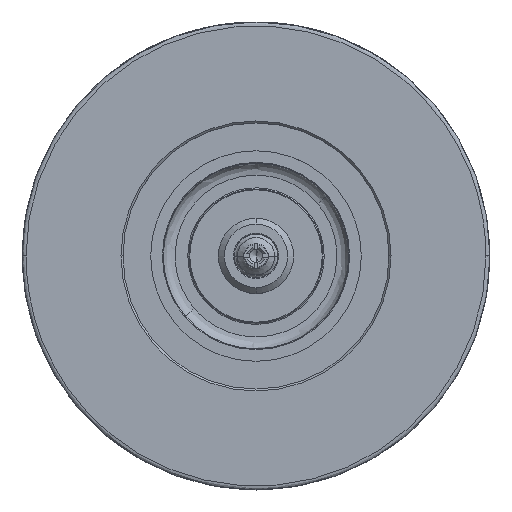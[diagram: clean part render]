
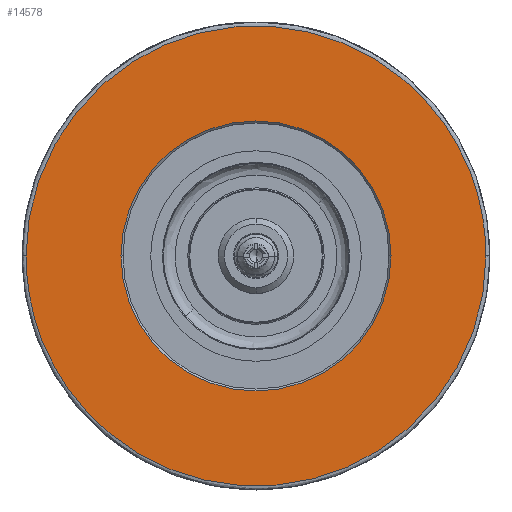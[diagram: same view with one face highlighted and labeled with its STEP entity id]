
A CAD part, top view. The second image highlights one B-rep face of the part: STEP entity #14578.
In plain terms, the highlighted planar face has unit normal (0, 0, 1).
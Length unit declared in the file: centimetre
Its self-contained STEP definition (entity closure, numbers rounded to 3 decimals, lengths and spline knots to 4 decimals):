
#3947 = EDGE_CURVE ( 'NONE', #18212, #4755, #41299, .T. ) ;
#4499 = EDGE_LOOP ( 'NONE', ( #4556, #4557 ) ) ;
#4550 = ORIENTED_EDGE ( 'NONE', *, *, #3947, .F. ) ;
#4551 = ORIENTED_EDGE ( 'NONE', *, *, #8740, .F. ) ;
#4556 = ORIENTED_EDGE ( 'NONE', *, *, #28967, .T. ) ;
#4557 = ORIENTED_EDGE ( 'NONE', *, *, #8785, .T. ) ;
#4755 = VERTEX_POINT ( 'NONE', #12757 ) ;
#4997 = AXIS2_PLACEMENT_3D ( 'NONE', #35416, #35417, #35418 ) ;
#5235 = CIRCLE ( 'NONE', #24213, 0.8649 ) ;
#7745 = EDGE_LOOP ( 'NONE', ( #4550, #4551 ) ) ;
#8201 = CARTESIAN_POINT ( 'NONE',  ( -1.4732, 0., 0. ) ) ;
#8202 = CARTESIAN_POINT ( 'NONE',  ( -1.4732, 2.9464, 0. ) ) ;
#8207 = CARTESIAN_POINT ( 'NONE',  ( 1.4732, 2.9464, 0. ) ) ;
#8208 = CARTESIAN_POINT ( 'NONE',  ( 1.4732, 0., 0. ) ) ;
#8515 = CARTESIAN_POINT ( 'NONE',  ( 0., 0., 0. ) ) ;
#8516 = DIRECTION ( 'NONE',  ( 0., 0., -1. ) ) ;
#8517 = DIRECTION ( 'NONE',  ( 1., 0., 0. ) ) ;
#8740 = EDGE_CURVE ( 'NONE', #4755, #18212, #41364, .T. ) ;
#8785 = EDGE_CURVE ( 'NONE', #18100, #18089, #5235, .T. ) ;
#9113 = AXIS2_PLACEMENT_3D ( 'NONE', #33412, #33554, #33555 ) ;
#10564 = CARTESIAN_POINT ( 'NONE',  ( 0.8649, 0., 0. ) ) ;
#10575 = CARTESIAN_POINT ( 'NONE',  ( -0.8649, 0., 0. ) ) ;
#10676 = CARTESIAN_POINT ( 'NONE',  ( 1.4732, 0., 0. ) ) ;
#12757 = CARTESIAN_POINT ( 'NONE',  ( -1.4732, 0., 0. ) ) ;
#14578 = ADVANCED_FACE ( 'NONE', ( #16588, #16593 ), #33552, .T. ) ;
#16588 = FACE_OUTER_BOUND ( 'NONE', #7745, .T. ) ;
#16593 = FACE_BOUND ( 'NONE', #4499, .T. ) ;
#17351 = CIRCLE ( 'NONE', #4997, 0.8649 ) ;
#18089 = VERTEX_POINT ( 'NONE', #10564 ) ;
#18100 = VERTEX_POINT ( 'NONE', #10575 ) ;
#18212 = VERTEX_POINT ( 'NONE', #10676 ) ;
#24213 = AXIS2_PLACEMENT_3D ( 'NONE', #8515, #8516, #8517 ) ;
#28967 = EDGE_CURVE ( 'NONE', #18089, #18100, #17351, .T. ) ;
#33412 = CARTESIAN_POINT ( 'NONE',  ( 0.8522, 0., 0. ) ) ;
#33552 = PLANE ( 'NONE',  #9113 ) ;
#33554 = DIRECTION ( 'NONE',  ( 0., 0., 1. ) ) ;
#33555 = DIRECTION ( 'NONE',  ( 1., 0., 0. ) ) ;
#33863 = CARTESIAN_POINT ( 'NONE',  ( 1.4732, -2.9464, 0. ) ) ;
#33865 = CARTESIAN_POINT ( 'NONE',  ( -1.4732, -2.9464, 0. ) ) ;
#33869 = CARTESIAN_POINT ( 'NONE',  ( 1.4732, 0., 0. ) ) ;
#33870 = CARTESIAN_POINT ( 'NONE',  ( -1.4732, 0., 0. ) ) ;
#35416 = CARTESIAN_POINT ( 'NONE',  ( 0., 0., 0. ) ) ;
#35417 = DIRECTION ( 'NONE',  ( 0., 0., -1. ) ) ;
#35418 = DIRECTION ( 'NONE',  ( 1., 0., 0. ) ) ;
#41299 =( BOUNDED_CURVE ( )  B_SPLINE_CURVE ( 3, ( #33869, #33863, #33865, #33870 ),
 .UNSPECIFIED., .F., .T. ) 
 B_SPLINE_CURVE_WITH_KNOTS ( ( 4, 4 ),
 ( 0., 0.5 ),
 .UNSPECIFIED. ) 
 CURVE ( )  GEOMETRIC_REPRESENTATION_ITEM ( )  RATIONAL_B_SPLINE_CURVE ( ( 1., 0.333, 0.333, 1. ) ) 
 REPRESENTATION_ITEM ( '' )  );
#41364 =( BOUNDED_CURVE ( )  B_SPLINE_CURVE ( 3, ( #8201, #8202, #8207, #8208 ),
 .UNSPECIFIED., .F., .T. ) 
 B_SPLINE_CURVE_WITH_KNOTS ( ( 4, 4 ),
 ( 0.5, 1. ),
 .UNSPECIFIED. ) 
 CURVE ( )  GEOMETRIC_REPRESENTATION_ITEM ( )  RATIONAL_B_SPLINE_CURVE ( ( 1., 0.333, 0.333, 1. ) ) 
 REPRESENTATION_ITEM ( '' )  );
